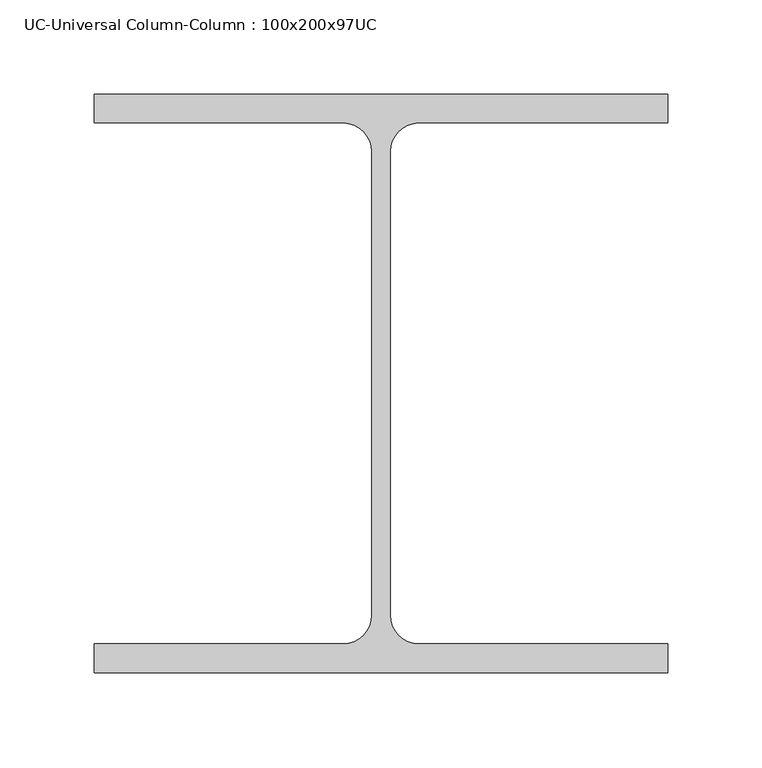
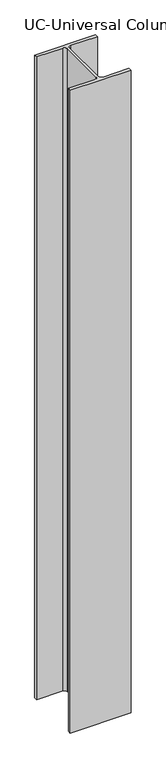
"""IFC4 building model written with IfcOpenShell, lengths in millimetres: column geometry, UC-Universal Column-Column : 100x200x97UC."""

import ifcopenshell
import ifcopenshell.guid

model = None  # the IFC model being written
_history = None  # IfcOwnerHistory: only IFC2X3 demands one
_inside = {}  # id of a spatial element -> (the spatial element, [elements in it])
_under = {}  # id of a project, library or spatial element -> (it, [spatial elements below it])
_declared = {}  # id of a project -> (the project, [libraries it declares])
_typed = {}  # id of a type object -> (the type object, [elements of that type])
_made_of = {}  # id of a material, layer set ... -> (it, [elements and type objects made of it])


def new_model(schema):
    """Start an empty IFC model of exactly this schema.

    Asked for "IFC4X3", IfcOpenShell would pick the latest addendum, in which some entities
    have other attributes; the version numbers below select the first issue.
    IFC2X3 requires an IfcOwnerHistory on every rooted entity: one is made here for all.
    """
    global model, _history
    if schema == "IFC4X3":
        model = ifcopenshell.file(schema_version=(4, 3, 0, 0))
    else:
        model = ifcopenshell.file(schema=schema)
    _inside.clear()
    _under.clear()
    _declared.clear()
    _typed.clear()
    _made_of.clear()
    _history = None
    if model.schema == "IFC2X3":
        org = make("IfcOrganization", Name="unknown")
        user = make(
            "IfcPersonAndOrganization",
            ThePerson=make("IfcPerson", FamilyName="unknown"),
            TheOrganization=org,
        )
        app = make(
            "IfcApplication",
            ApplicationDeveloper=org,
            Version="unknown",
            ApplicationFullName="unknown",
            ApplicationIdentifier="unknown",
        )
        _history = make(
            "IfcOwnerHistory",
            OwningUser=user,
            OwningApplication=app,
            ChangeAction="ADDED",
            CreationDate=0,
        )
    return model


def make(cls, **values):
    """One entity of the class cls with the attributes given. An attribute that is None is left unset."""
    return model.create_entity(
        cls, **{name: value for name, value in values.items() if value is not None}
    )


def rooted(cls, **values):
    """An entity with a GlobalId (a new one), such as an element, a storey or a relation."""
    return make(cls, GlobalId=ifcopenshell.guid.new(), OwnerHistory=_history, **values)


def si_unit(unit_type, name, prefix=None):
    """IfcSIUnit, for example si_unit("LENGTHUNIT", "METRE", prefix="MILLI")."""
    return make("IfcSIUnit", UnitType=unit_type, Prefix=prefix, Name=name)


def assignment(units):
    """IfcUnitAssignment: the units of a project."""
    return None if units is None else make("IfcUnitAssignment", Units=units)


def point(xyz):
    """IfcCartesianPoint."""
    return None if xyz is None else make("IfcCartesianPoint", Coordinates=xyz)


def direction(xyz):
    """IfcDirection."""
    return None if xyz is None else make("IfcDirection", DirectionRatios=xyz)


def frame(location, z_axis=None, x_axis=None):
    """IfcAxis2Placement3D, a coordinate frame: its origin and axes. An axis left out is left unset."""
    return make(
        "IfcAxis2Placement3D",
        Location=point(location),
        Axis=direction(z_axis),
        RefDirection=direction(x_axis),
    )


def frame_2d(location, x_axis=None):
    """IfcAxis2Placement2D, a coordinate frame in the plane: its origin and x axis."""
    return make(
        "IfcAxis2Placement2D", Location=point(location), RefDirection=direction(x_axis)
    )


def origin():
    """The frame at (0, 0, 0) with its axes left unset."""
    return frame((0.0, 0.0, 0.0))


def origin_with_axes():
    """The frame at (0, 0, 0) with the z axis (0, 0, 1) and the x axis (1, 0, 0) written out."""
    return frame((0.0, 0.0, 0.0), z_axis=(0.0, 0.0, 1.0), x_axis=(1.0, 0.0, 0.0))


def place(relative_to, where):
    """IfcLocalPlacement: puts the frame where relative to a parent placement (None: the world)."""
    return make(
        "IfcLocalPlacement", PlacementRelTo=relative_to, RelativePlacement=where
    )


def context(
    kind, dimensions, precision=None, world=None, true_north=None, identifier=None
):
    """IfcGeometricRepresentationContext, for example the 3D "Model" context."""
    return make(
        "IfcGeometricRepresentationContext",
        ContextIdentifier=identifier,
        ContextType=kind,
        CoordinateSpaceDimension=dimensions,
        Precision=precision,
        WorldCoordinateSystem=world,
        TrueNorth=true_north,
    )


def project(units=None, contexts=None):
    """IfcProject with its units and contexts."""
    return rooted(
        "IfcProject",
        Name="project",
        RepresentationContexts=contexts,
        UnitsInContext=assignment(units),
    )


def spatial(cls, under=None, at=None, **own):
    """A site, building, storey or space (cls), placed at a placement, below another one or the project."""
    s = rooted(cls, ObjectPlacement=at, **own)
    if under is not None:
        _under.setdefault(under.id(), (under, []))[1].append(s)
    return s


def polyline(points):
    """IfcPolyline through the points."""
    return make("IfcPolyline", Points=[point(p) for p in points])


def circle_curve(where, radius):
    """IfcCircle in the frame where."""
    return make("IfcCircle", Position=where, Radius=radius)


def trimmed(basis, trim1, trim2, sense, master):
    """IfcTrimmedCurve: the piece of a basis curve between two trims."""
    return make(
        "IfcTrimmedCurve",
        BasisCurve=basis,
        Trim1=trim1,
        Trim2=trim2,
        SenseAgreement=sense,
        MasterRepresentation=master,
    )


def segment(curve, same_sense, transition):
    """IfcCompositeCurveSegment."""
    return make(
        "IfcCompositeCurveSegment",
        Transition=transition,
        SameSense=same_sense,
        ParentCurve=curve,
    )


def composite_curve(segments, self_intersect=None):
    """IfcCompositeCurve: segments joined end to end."""
    return make("IfcCompositeCurve", Segments=segments, SelfIntersect=self_intersect)


def outline(outer, holes=None, kind="AREA"):
    """IfcArbitraryClosedProfileDef: a profile drawn as a closed curve; with holes, ...WithVoids."""
    if holes is None:
        return make("IfcArbitraryClosedProfileDef", ProfileType=kind, OuterCurve=outer)
    return make(
        "IfcArbitraryProfileDefWithVoids",
        ProfileType=kind,
        OuterCurve=outer,
        InnerCurves=holes,
    )


def extrude(swept, where, along, depth):
    """IfcExtrudedAreaSolid: the profile swept, set in the frame where, extruded along a direction by depth."""
    return make(
        "IfcExtrudedAreaSolid",
        SweptArea=swept,
        Position=where,
        ExtrudedDirection=direction(along),
        Depth=depth,
    )


def shape(context_of_items, identifier, shape_type, items):
    """IfcShapeRepresentation: the items that make up one representation, for example the "Body"."""
    return make(
        "IfcShapeRepresentation",
        ContextOfItems=context_of_items,
        RepresentationIdentifier=identifier,
        RepresentationType=shape_type,
        Items=items,
    )


def source(mapping_origin, context_of_items, identifier, shape_type, items):
    """IfcRepresentationMap: a shape defined once, which mapped items show again and again."""
    return make(
        "IfcRepresentationMap",
        MappingOrigin=mapping_origin,
        MappedRepresentation=shape(context_of_items, identifier, shape_type, items),
    )


def transform(
    local_origin,
    x_axis=None,
    y_axis=None,
    z_axis=None,
    scale=None,
    scale2=None,
    scale3=None,
    uniform=True,
):
    """IfcCartesianTransformationOperator3D, or its non-uniform kind. x_axis, y_axis, z_axis: its Axis1, 2, 3."""
    if uniform:
        return make(
            "IfcCartesianTransformationOperator3D",
            Axis1=direction(x_axis),
            Axis2=direction(y_axis),
            LocalOrigin=point(local_origin),
            Scale=scale,
            Axis3=direction(z_axis),
        )
    return make(
        "IfcCartesianTransformationOperator3DnonUniform",
        Axis1=direction(x_axis),
        Axis2=direction(y_axis),
        LocalOrigin=point(local_origin),
        Scale=scale,
        Axis3=direction(z_axis),
        Scale2=scale2,
        Scale3=scale3,
    )


def mapped(mapping_source, mapping_target):
    """IfcMappedItem: shows the shape of a source again, moved by a transform."""
    return make(
        "IfcMappedItem", MappingSource=mapping_source, MappingTarget=mapping_target
    )


def made_of(thing, what):
    """Note that an element or type object is made of a material, layer set ...; save() writes the relation."""
    if what is not None:
        _made_of.setdefault(what.id(), (what, []))[1].append(thing)
    return thing


def element(
    cls,
    number,
    at=None,
    inside=None,
    cuts=None,
    type_object=None,
    material=None,
    context=None,
    identifier="Body",
    shape_type=None,
    held_by="IfcProductDefinitionShape",
    body=None,
    shapes=None,
    **own,
):
    """One element of the class cls, such as IfcWall. Its Tag is "e" and its number.

    at: its placement. inside: the storey or other place that contains it. cuts: it is an
    opening in that element (IfcRelVoidsElement). A single representation is given by context,
    identifier, shape_type and body (its items); several are given by shapes. held_by: the class
    of the entity that holds the representations. save() writes the other relations.
    """
    e = rooted(cls, Tag="e%d" % number, ObjectPlacement=at, **own)
    if body is not None:
        shapes = [shape(context, identifier, shape_type, body)]
    if shapes is not None:
        e.Representation = make(held_by, Representations=shapes)
    if inside is not None:
        _inside.setdefault(inside.id(), (inside, []))[1].append(e)
    if cuts is not None:
        rooted(
            "IfcRelVoidsElement", RelatingBuildingElement=cuts, RelatedOpeningElement=e
        )
    if type_object is not None:
        _typed.setdefault(type_object.id(), (type_object, []))[1].append(e)
    return made_of(e, material)


def aggregate(whole, parts):
    """IfcRelAggregates: a whole, such as a stair, and the parts it consists of."""
    return rooted("IfcRelAggregates", RelatingObject=whole, RelatedObjects=parts)


def save(model, path):
    """Write the relations noted so far, then the file.

    IfcRelAggregates (storeys below a building ...), IfcRelContainedInSpatialStructure (elements
    in a storey), IfcRelDefinesByType, IfcRelAssociatesMaterial and IfcRelDeclares: one each for
    every whole, place, type object, material and project.
    """
    for whole, parts in _under.values():
        aggregate(whole, parts)
    for where, things in _inside.values():
        rooted(
            "IfcRelContainedInSpatialStructure",
            RelatedElements=things,
            RelatingStructure=where,
        )
    for kind, things in _typed.values():
        rooted("IfcRelDefinesByType", RelatedObjects=things, RelatingType=kind)
    for what, things in _made_of.values():
        rooted("IfcRelAssociatesMaterial", RelatedObjects=things, RelatingMaterial=what)
    for by, libraries in _declared.values():
        rooted("IfcRelDeclares", RelatingContext=by, RelatedDefinitions=libraries)
    model.write(path)


def uc_universal_column_column_100x200x97uc_8f00512b(model_context):
    return source(origin(), model_context, "Body", "SweptSolid", [
        extrude(outline(composite_curve([segment(polyline([(152.65, 153.95), (152.65, 138.55), (20.15, 138.55)]), True, "CONTINUOUS"), segment(trimmed(circle_curve(frame_2d((20.15, 123.35)), 15.2), [point((20.15, 138.55))], [point((4.95, 123.35))], True, "CARTESIAN"), True, "CONTINUOUS"), segment(polyline([(4.95, 123.35), (4.95, -123.35)]), True, "CONTINUOUS"), segment(trimmed(circle_curve(frame_2d((20.15, -123.35)), 15.2), [point((4.95, -123.35))], [point((20.15, -138.55))], True, "CARTESIAN"), True, "CONTINUOUS"), segment(polyline([(20.15, -138.55), (152.65, -138.55), (152.65, -153.95), (-152.65, -153.95), (-152.65, -138.55), (-20.15, -138.55)]), True, "CONTINUOUS"), segment(trimmed(circle_curve(frame_2d((-20.15, -123.35)), 15.2), [point((-20.15, -138.55))], [point((-4.95, -123.35))], True, "CARTESIAN"), True, "CONTINUOUS"), segment(polyline([(-4.95, -123.35), (-4.95, 123.35)]), True, "CONTINUOUS"), segment(trimmed(circle_curve(frame_2d((-20.15, 123.35)), 15.2), [point((-4.95, 123.35))], [point((-20.15, 138.55))], True, "CARTESIAN"), True, "CONTINUOUS"), segment(polyline([(-20.15, 138.55), (-152.65, 138.55), (-152.65, 153.95), (152.65, 153.95)]), True, "CONTINUOUS")], self_intersect=False)), origin_with_axes(), (0.0, 0.0, 1.0), 3410.0),
    ])


if __name__ == "__main__":
    model = new_model("IFC4")
    model_context = context("Model", 3, world=origin())
    ifc_project = project(units=[si_unit("LENGTHUNIT", "METRE", prefix="MILLI")], contexts=[model_context])
    site = spatial("IfcSite", under=ifc_project)
    building = spatial("IfcBuilding", under=site)
    placement = place(None, origin())
    uc_universal_column_column_100x200x97uc_shape = uc_universal_column_column_100x200x97uc_8f00512b(model_context)
    element("IfcColumn", 1, ObjectType="UC-Universal Column-Column : 100x200x97UC", at=placement, inside=building, context=model_context, shape_type="MappedRepresentation", body=[
        mapped(uc_universal_column_column_100x200x97uc_shape, transform((0.0, 0.0, 0.0), x_axis=(1.0, 0.0, 0.0), y_axis=(0.0, 1.0, 0.0), z_axis=(0.0, 0.0, 1.0))),
    ])
    save(model, "model.ifc")
